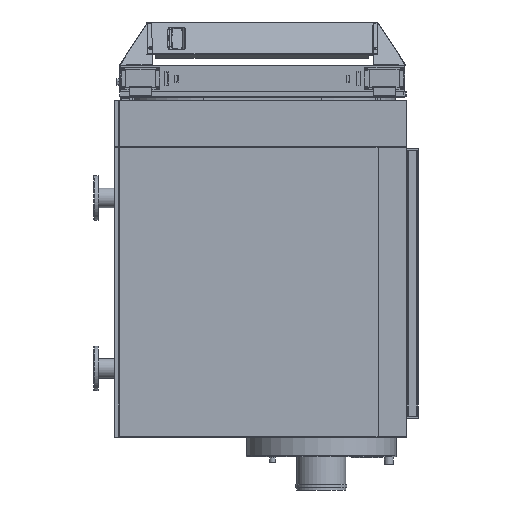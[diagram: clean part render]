
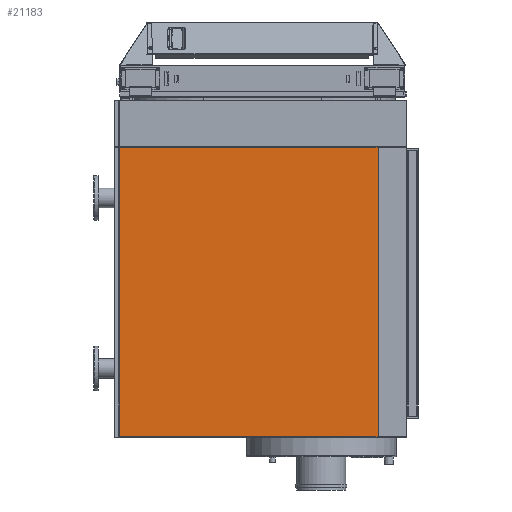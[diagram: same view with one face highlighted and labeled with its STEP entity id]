
A CAD part, left-side view. The second image highlights one B-rep face of the part: STEP entity #21183.
In plain terms, the highlighted planar face has unit normal (-1, 0, 0).
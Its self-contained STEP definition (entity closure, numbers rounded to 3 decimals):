
#2622 = EDGE_CURVE ( 'NONE', #36824, #34200, #31813, .T. ) ;
#2664 = ORIENTED_EDGE ( 'NONE', *, *, #46394, .T. ) ;
#3489 = DIRECTION ( 'NONE',  ( 0., 1., 0. ) ) ;
#5333 = EDGE_CURVE ( 'NONE', #34460, #37914, #6265, .T. ) ;
#5752 = CARTESIAN_POINT ( 'NONE',  ( 67.546, 671.822, 9.15 ) ) ;
#6265 = LINE ( 'NONE', #50269, #17402 ) ;
#6383 = CARTESIAN_POINT ( 'NONE',  ( 67.546, 672.672, -1299.15 ) ) ;
#6655 = VECTOR ( 'NONE', #47993, 1000. ) ;
#8471 = DIRECTION ( 'NONE',  ( 1., 0., 0. ) ) ;
#10883 = VECTOR ( 'NONE', #20703, 1000. ) ;
#12010 = CARTESIAN_POINT ( 'NONE',  ( 67.546, -496.478, 9.15 ) ) ;
#12389 = ORIENTED_EDGE ( 'NONE', *, *, #5333, .T. ) ;
#14334 = ORIENTED_EDGE ( 'NONE', *, *, #32526, .T. ) ;
#16442 = ORIENTED_EDGE ( 'NONE', *, *, #2622, .T. ) ;
#16910 = EDGE_LOOP ( 'NONE', ( #14334, #12389, #2664, #16442 ) ) ;
#17402 = VECTOR ( 'NONE', #3489, 1000. ) ;
#20703 = DIRECTION ( 'NONE',  ( 0., 0., 1. ) ) ;
#21183 = ADVANCED_FACE ( 'NONE', ( #54182 ), #50325, .F. ) ;
#22644 = DIRECTION ( 'NONE',  ( 0., 0., -1. ) ) ;
#24139 = CARTESIAN_POINT ( 'NONE',  ( 67.546, -496.478, -1299.15 ) ) ;
#29801 = CARTESIAN_POINT ( 'NONE',  ( 67.546, 672.672, 10. ) ) ;
#31813 = LINE ( 'NONE', #6383, #6655 ) ;
#32526 = EDGE_CURVE ( 'NONE', #34200, #34460, #53020, .T. ) ;
#34200 = VERTEX_POINT ( 'NONE', #24139 ) ;
#34460 = VERTEX_POINT ( 'NONE', #12010 ) ;
#34575 = AXIS2_PLACEMENT_3D ( 'NONE', #29801, #8471, #38290 ) ;
#36824 = VERTEX_POINT ( 'NONE', #50900 ) ;
#37914 = VERTEX_POINT ( 'NONE', #5752 ) ;
#38290 = DIRECTION ( 'NONE',  ( 0., 0., -1. ) ) ;
#41671 = VECTOR ( 'NONE', #22644, 1000. ) ;
#42896 = CARTESIAN_POINT ( 'NONE',  ( 67.546, 671.822, 6560. ) ) ;
#43160 = LINE ( 'NONE', #42896, #41671 ) ;
#46394 = EDGE_CURVE ( 'NONE', #37914, #36824, #43160, .T. ) ;
#47993 = DIRECTION ( 'NONE',  ( 0., -1., 0. ) ) ;
#49976 = CARTESIAN_POINT ( 'NONE',  ( 67.546, -496.478, -1300. ) ) ;
#50269 = CARTESIAN_POINT ( 'NONE',  ( 67.546, -497.328, 9.15 ) ) ;
#50325 = PLANE ( 'NONE',  #34575 ) ;
#50900 = CARTESIAN_POINT ( 'NONE',  ( 67.546, 671.822, -1299.15 ) ) ;
#53020 = LINE ( 'NONE', #49976, #10883 ) ;
#54182 = FACE_OUTER_BOUND ( 'NONE', #16910, .T. ) ;
